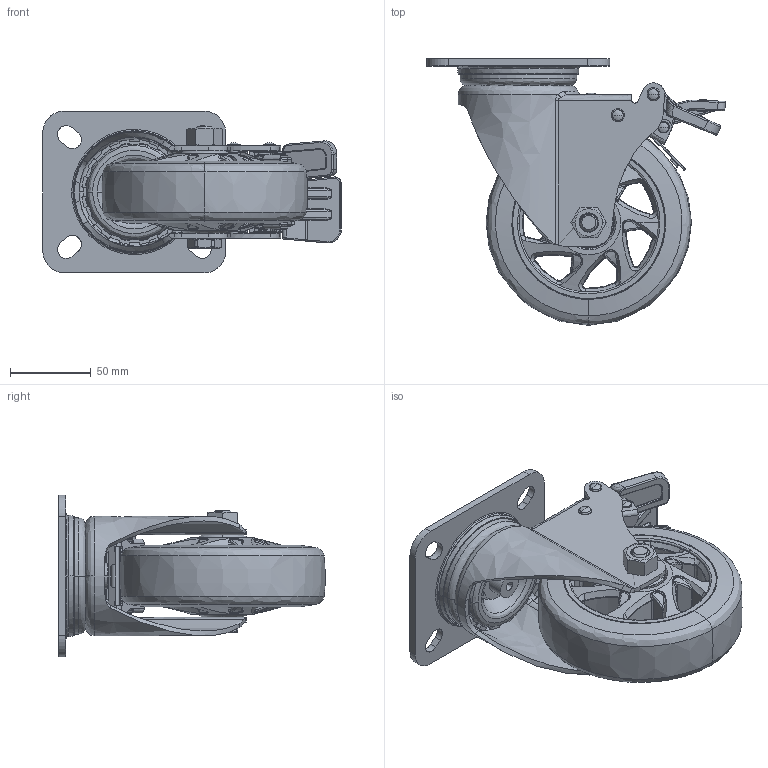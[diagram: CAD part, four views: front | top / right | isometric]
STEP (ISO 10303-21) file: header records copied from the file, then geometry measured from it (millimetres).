
FILE_DESCRIPTION (( 'STEP AP203' ), '1' );
FILE_NAME ('5渡勀砃湍价陬.STEP', '2024-12-26T03:38:48', ( '' ), ( '' ), 'SwSTEP 2.0', 'SolidWorks 2023', '' );
FILE_SCHEMA (( 'CONFIG_CONTROL_DESIGN' ));
Products named in the file (1): 5寸万向带刹车
Bounding box: 184.28 x 164.69 x 100 mm (x, y, z)
Surface area: 258172.4 mm2 (no closed solid volume)
Topology: 0 solids, 77 shells, 2278 faces, 6139 edges, 3819 vertices
Faces by surface type: bspline 2166, plane 100, cylinder 12
Entity records: 135151 total; most frequent: CARTESIAN_POINT 101362, ORIENTED_EDGE 11356, EDGE_CURVE 5917, B_SPLINE_CURVE_WITH_KNOTS 4347, VERTEX_POINT 3819, EDGE_LOOP 2428, ADVANCED_FACE 2278, FACE_OUTER_BOUND 2278
